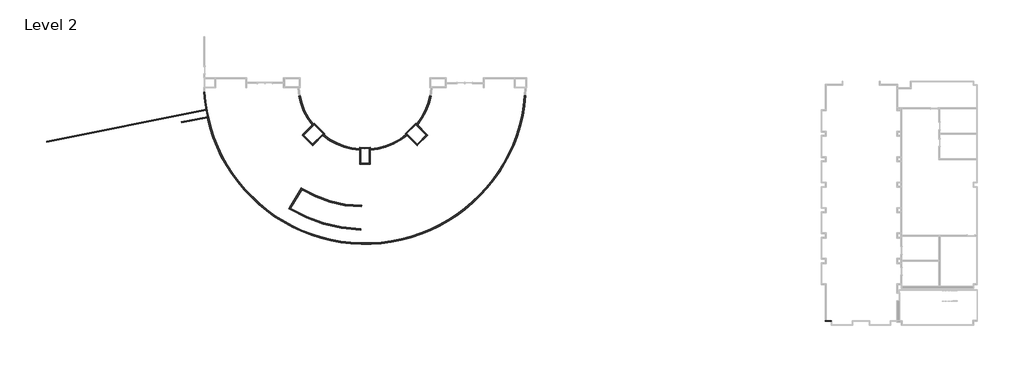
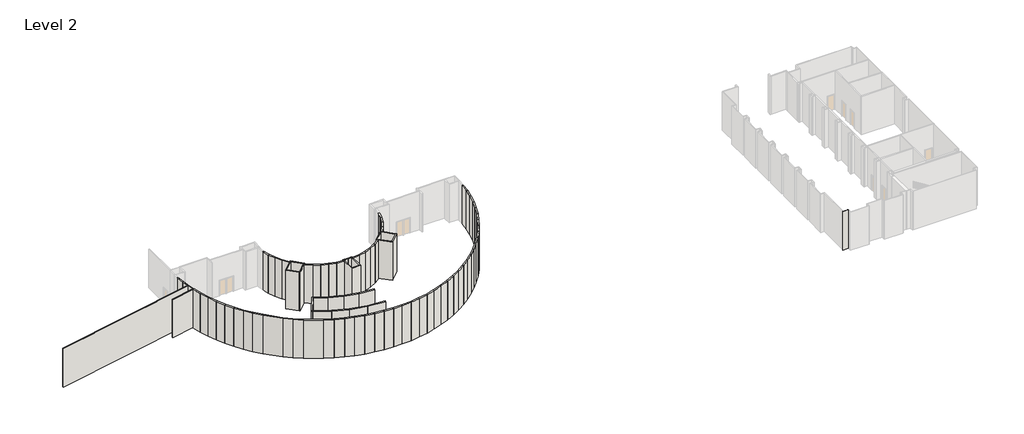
# One storey, part 1 of 9: 89 walls.
"""IFC4 building model written with IfcOpenShell, lengths in millimetres."""

from ifc_helpers import new_model, si_unit, frame, origin, place, context, project, spatial, polyline, outline, extrude, faceted_brep, element, save

model = new_model("IFC4")

# Units and contexts
model_context = context("Model", 3, world=origin())
ifc_project = project(units=[si_unit("LENGTHUNIT", "METRE", prefix="MILLI")], contexts=[model_context])

# Site, building, storey
site = spatial("IfcSite", under=ifc_project)
building = spatial("IfcBuilding", under=site)
storey = spatial("IfcBuildingStorey", under=building, Name="Level 2", Elevation=5486.4)

# Walls
placement = place(None, origin())
element("IfcWall", 1, ObjectType="N2A/B", at=placement, inside=storey, context=model_context, shape_type="Brep", body=[
    faceted_brep([(30238.1397946, -3737.1270097, 5486.4), (28978.6271244, -4996.6396799, 5486.4), (28978.6271244, -4996.6396799, 10972.8), (30238.1397946, -3737.1270097, 10972.8), (30325.6972918, -3824.6845069, 5486.4), (30325.6972918, -3824.6845069, 10972.8), (30238.1397946, -3912.2420041, 10972.8), (29153.7421187, -4996.6396799, 10972.8), (29066.1846216, -5084.1971771, 10972.8), (29066.1846216, -5084.1971771, 5486.4), (29153.7421187, -4996.6396799, 5486.4), (30238.1397946, -3912.2420041, 5486.4)], [[[0, 1, 2, 3]], [[4, 5, 6, 7, 8, 9, 10, 11]], [[1, 0, 4, 11, 10, 9]], [[3, 2, 8, 7, 6, 5]], [[2, 1, 9, 8]], [[0, 3, 5, 4]]]),
])
element("IfcWall", 2, ObjectType="N2A/B", at=placement, inside=storey, context=model_context, shape_type="Brep", body=[
    faceted_brep([(29066.1846216, -5084.1971771, 5486.4), (30397.3315215, -6415.344077, 5486.4), (30397.3315215, -6415.344077, 10972.8), (29066.1846216, -5084.1971771, 10972.8), (29153.7421187, -4996.6396799, 5486.4), (29153.7421187, -4996.6396799, 10972.8), (30397.3315215, -6240.2290827, 10972.8), (30484.8890186, -6327.7865798, 10972.8), (30484.8890186, -6327.7865798, 5486.4), (30397.3315215, -6240.2290827, 5486.4)], [[[0, 1, 2, 3]], [[4, 5, 6, 7, 8, 9]], [[1, 0, 4, 9, 8]], [[3, 2, 7, 6, 5]], [[2, 1, 8, 7]], [[0, 3, 5, 4]]]),
])
element("IfcWall", 3, ObjectType="N2A/B", at=placement, inside=storey, context=model_context, shape_type="Brep", body=[
    faceted_brep([(30484.8890186, -6327.7865798, 5486.4), (31656.8441917, -5155.8314068, 5486.4), (31656.8441917, -5155.8314068, 10972.8), (30484.8890186, -6327.7865798, 10972.8), (30397.3315215, -6240.2290827, 5486.4), (30397.3315215, -6240.2290827, 10972.8), (31481.7291974, -5155.8314068, 10972.8), (31569.2866945, -5068.2739096, 10972.8), (31569.2866945, -5068.2739096, 5486.4), (31481.7291974, -5155.8314068, 5486.4)], [[[0, 1, 2, 3]], [[4, 5, 6, 7, 8, 9]], [[1, 0, 4, 9, 8]], [[3, 2, 7, 6, 5]], [[2, 1, 8, 7]], [[0, 3, 5, 4]]]),
])
element("IfcWall", 4, ObjectType="N2A/B", at=placement, inside=storey, context=model_context, shape_type="SweptSolid", body=[
    extrude(outline(polyline([(30325.6972918, -3824.6845069), (31569.2866945, -5068.2739096), (31481.7291974, -5155.8314068), (30238.1397946, -3912.2420041), (30325.6972918, -3824.6845069)])), frame((0.0, 0.0, 5486.4), z_axis=(0.0, 0.0, 1.0), x_axis=(1.0, 0.0, 0.0)), (0.0, 0.0, 1.0), 5486.4),
])
element("IfcWall", 5, ObjectType="N2A/B", at=placement, inside=storey, context=model_context, shape_type="Brep", body=[
    faceted_brep([(17966.7117714, -3824.8617781, 5486.4), (18054.2692686, -3912.4192752, 5486.4), (19138.6351952, -4996.7852019, 5486.4), (19226.1926924, -5084.342699, 5486.4), (19226.1926924, -5084.342699, 10972.8), (19138.6351952, -4996.7852019, 10972.8), (18054.2692686, -3912.4192752, 10972.8), (17966.7117714, -3824.8617781, 10972.8), (18054.2692686, -3737.3042809, 5486.4), (18054.2692686, -3737.3042809, 10972.8), (19313.7501896, -4996.7852019, 10972.8), (19313.7501896, -4996.7852019, 5486.4)], [[[0, 1, 2, 3, 4, 5, 6, 7]], [[8, 9, 10, 11]], [[3, 2, 1, 0, 8, 11]], [[7, 6, 5, 4, 10, 9]], [[4, 3, 11, 10]], [[0, 7, 9, 8]]]),
])
element("IfcWall", 6, ObjectType="N2A/B", at=placement, inside=storey, context=model_context, shape_type="Brep", body=[
    faceted_brep([(19138.6351952, -4996.7852019, 5486.4), (17895.0741501, -6240.346247, 5486.4), (17807.5166529, -6327.9037441, 5486.4), (17807.5166529, -6327.9037441, 10972.8), (17895.0741501, -6240.346247, 10972.8), (19138.6351952, -4996.7852019, 10972.8), (19226.1926924, -5084.342699, 5486.4), (19226.1926924, -5084.342699, 10972.8), (17895.0741501, -6415.4612413, 10972.8), (17895.0741501, -6415.4612413, 5486.4)], [[[0, 1, 2, 3, 4, 5]], [[6, 7, 8, 9]], [[2, 1, 0, 6, 9]], [[5, 4, 3, 8, 7]], [[3, 2, 9, 8]], [[0, 5, 7, 6]]]),
])
element("IfcWall", 7, ObjectType="N2A/B", at=placement, inside=storey, context=model_context, shape_type="Brep", body=[
    faceted_brep([(17895.0741501, -6240.346247, 5486.4), (16810.7082235, -5155.9803203, 5486.4), (16723.1507263, -5068.4228232, 5486.4), (16723.1507263, -5068.4228232, 10972.8), (16810.7082235, -5155.9803203, 10972.8), (17895.0741501, -6240.346247, 10972.8), (17807.5166529, -6327.9037441, 5486.4), (17807.5166529, -6327.9037441, 10972.8), (16635.5932291, -5155.9803203, 10972.8), (16635.5932291, -5155.9803203, 5486.4)], [[[0, 1, 2, 3, 4, 5]], [[6, 7, 8, 9]], [[2, 1, 0, 6, 9]], [[5, 4, 3, 8, 7]], [[3, 2, 9, 8]], [[0, 5, 7, 6]]]),
])
element("IfcWall", 8, ObjectType="N2A/B", at=placement, inside=storey, context=model_context, shape_type="SweptSolid", body=[
    extrude(outline(polyline([(18054.2692686, -3912.4192752), (16810.7082235, -5155.9803203), (16723.1507263, -5068.4228232), (17966.7117714, -3824.8617781), (18054.2692686, -3912.4192752)])), frame((0.0, 0.0, 5486.4), z_axis=(0.0, 0.0, 1.0), x_axis=(1.0, 0.0, 0.0)), (0.0, 0.0, 1.0), 5486.4),
])
element("IfcWall", 9, ObjectType="F1A", at=placement, inside=storey, context=model_context, shape_type="Brep", body=[
    faceted_brep([(80010.3440089, -27400.4418895, 5486.4), (79378.5190091, -27400.4418895, 5486.4), (79270.5690091, -27400.4418895, 5486.4), (79270.5690091, -27400.4418895, 10972.8), (79378.5190091, -27400.4418895, 10972.8), (80010.3440089, -27400.4418895, 10972.8), (80010.3440089, -27457.5918895, 5486.4), (80010.3440089, -27457.5918895, 10972.8), (79270.5690091, -27457.5918895, 10972.8), (79270.5690091, -27457.5918895, 5486.4)], [[[0, 1, 2, 3, 4, 5]], [[6, 7, 8, 9]], [[2, 1, 0, 6, 9]], [[5, 4, 3, 8, 7]], [[3, 2, 9, 8]], [[0, 5, 7, 6]]]),
])
element("IfcWall", 10, ObjectType="F1C", at=placement, inside=storey, context=model_context, shape_type="Brep", body=[
    faceted_brep([(5097.9638142, -1895.0682709, 5486.4), (5131.2868289, -2066.5003198, 5486.4), (5151.8849533, -2172.4684834, 5486.4), (5304.391453, -2957.0464088, 5486.4), (5324.9895774, -3063.0145724, 5486.4), (5325.5700454, -3066.0008215, 5486.4), (5325.5700454, -3066.0008215, 10972.8), (5324.9895774, -3063.0145724, 10972.8), (5304.391453, -2957.0464088, 10972.8), (5151.8849533, -2172.4684834, 10972.8), (5131.2868289, -2066.5003198, 10972.8), (5097.9638142, -1895.0682709, 10972.8), (5291.0847469, -2322.8403316, 5486.4), (5291.0847469, -2322.8403316, 10972.8), (5430.9969566, -3042.6262519, 10972.8), (5430.9969566, -3042.6262519, 5486.4), (5378.5533726, -3055.701906, 5486.4), (5378.5533726, -3055.701906, 10972.8)], [[[0, 1, 2, 3, 4, 5, 6, 7, 8, 9, 10, 11]], [[12, 13, 14, 15]], [[5, 4, 3, 2, 1, 0, 12, 15, 16]], [[6, 5, 16, 17]], [[11, 10, 9, 8, 7, 6, 17, 14, 13]], [[0, 11, 13, 12]], [[15, 14, 17, 16]]]),
])
element("IfcWall", 11, ObjectType="F1C", at=placement, inside=storey, context=model_context, shape_type="SweptSolid", body=[
    extrude(outline(polyline([(-13986.764687, -5888.6711565), (5131.2868289, -2066.5003198), (5151.8849533, -2172.4684834), (-13965.6016139, -5994.5263729), (-13986.764687, -5888.6711565)])), frame((0.0, 0.0, 5486.4), z_axis=(0.0, 0.0, 1.0), x_axis=(1.0, 0.0, 0.0)), (0.0, 0.0, 1.0), 5486.4),
])
element("IfcWall", 12, ObjectType="F1C", at=placement, inside=storey, context=model_context, shape_type="SweptSolid", body=[
    extrude(outline(polyline([(2165.8131513, -3584.5257544), (5304.391453, -2957.0464088), (5324.9895774, -3063.0145724), (2186.9762244, -3690.3809708), (2165.8131513, -3584.5257544)])), frame((0.0, 0.0, 5486.4), z_axis=(0.0, 0.0, 1.0), x_axis=(1.0, 0.0, 0.0)), (0.0, 0.0, 1.0), 5486.4),
])
element("IfcWall", 13, ObjectType="F1C", at=placement, inside=storey, context=model_context, shape_type="Brep", body=[
    faceted_brep([(24755.8004373, -6647.8940071, 5486.4), (24146.6904726, -6669.1645957, 5486.4), (24146.6904726, -6669.1645957, 10972.8), (24755.8004373, -6647.8940071, 10972.8), (24755.8004373, -6755.9098074, 5486.4), (24755.8004373, -6755.9098074, 10972.8), (24647.8504373, -6759.6795044, 10972.8), (24145.7475456, -6777.2133238, 10972.8), (24145.7475456, -6777.2133238, 5486.4), (24647.8504373, -6759.6795044, 5486.4)], [[[0, 1, 2, 3]], [[4, 5, 6, 7, 8, 9]], [[1, 0, 4, 9, 8]], [[3, 2, 7, 6, 5]], [[2, 1, 8, 7]], [[0, 3, 5, 4]]]),
])
element("IfcWall", 14, ObjectType="F1C", at=placement, inside=storey, context=model_context, shape_type="Brep", body=[
    faceted_brep([(24146.6904726, -6669.1645957, 5486.4), (23536.6006491, -6637.1911429, 5486.4), (23536.6006491, -6637.1911429, 10972.8), (24146.6904726, -6669.1645957, 10972.8), (24145.7475456, -6777.2133238, 5486.4), (24145.7475456, -6777.2133238, 10972.8), (23644.5506491, -6750.9467074, 10972.8), (23536.6006491, -6745.2892877, 10972.8), (23536.6006491, -6745.2892877, 5486.4), (23644.5506491, -6750.9467074, 5486.4)], [[[0, 1, 2, 3]], [[4, 5, 6, 7, 8, 9]], [[1, 0, 4, 9, 8]], [[3, 2, 7, 6, 5]], [[2, 1, 8, 7]], [[0, 3, 5, 4]]]),
])
element("IfcWall", 15, ObjectType="F1C", at=placement, inside=storey, context=model_context, shape_type="Brep", body=[
    faceted_brep([(23536.6006491, -6745.2892877, 5486.4), (23536.6006491, -8658.2607573, 5486.4), (23536.6006491, -8658.2607573, 10972.8), (23536.6006491, -6745.2892877, 10972.8), (23644.5506491, -6750.9467074, 5486.4), (23644.5506491, -6750.9467074, 10972.8), (23644.5506491, -8550.3107573, 10972.8), (23644.5506491, -8658.2607573, 10972.8), (23644.5506491, -8658.2607573, 5486.4), (23644.5506491, -8550.3107573, 5486.4)], [[[0, 1, 2, 3]], [[4, 5, 6, 7, 8, 9]], [[1, 0, 4, 9, 8]], [[3, 2, 7, 6, 5]], [[2, 1, 8, 7]], [[0, 3, 5, 4]]]),
])
element("IfcWall", 16, ObjectType="F1C", at=placement, inside=storey, context=model_context, shape_type="Brep", body=[
    faceted_brep([(23644.5506491, -8658.2607573, 5486.4), (24755.8004373, -8658.2607573, 5486.4), (24755.8004373, -8658.2607573, 10972.8), (23644.5506491, -8658.2607573, 10972.8), (23644.5506491, -8550.3107573, 5486.4), (23644.5506491, -8550.3107573, 10972.8), (24647.8504373, -8550.3107573, 10972.8), (24755.8004373, -8550.3107573, 10972.8), (24755.8004373, -8550.3107573, 5486.4), (24647.8504373, -8550.3107573, 5486.4)], [[[0, 1, 2, 3]], [[4, 5, 6, 7, 8, 9]], [[1, 0, 4, 9, 8]], [[3, 2, 7, 6, 5]], [[2, 1, 8, 7]], [[0, 3, 5, 4]]]),
])
element("IfcWall", 17, ObjectType="F1C", at=placement, inside=storey, context=model_context, shape_type="SweptSolid", body=[
    extrude(outline(polyline([(24755.8004373, -6755.9098074), (24755.8004373, -8550.3107573), (24647.8504373, -8550.3107573), (24647.8504373, -6759.6795044), (24755.8004373, -6755.9098074)])), frame((0.0, 0.0, 5486.4), z_axis=(0.0, 0.0, 1.0), x_axis=(1.0, 0.0, 0.0)), (0.0, 0.0, 1.0), 5486.4),
])
element("IfcWall", 18, ObjectType="N10C", at=placement, inside=storey, context=model_context, shape_type="SweptSolid", body=[
    extrude(outline(polyline([(43129.6516334, -1640.3814089), (43255.2174768, -445.7022122), (43438.8627344, -460.1554075), (43312.1206535, -1666.0257573), (43129.6516334, -1640.3814089)])), frame((0.0, 0.0, 5486.4), z_axis=(0.0, 0.0, 1.0), x_axis=(1.0, 0.0, 0.0)), (0.0, 0.0, 1.0), 5486.4),
])
element("IfcWall", 19, ObjectType="N10C", at=placement, inside=storey, context=model_context, shape_type="SweptSolid", body=[
    extrude(outline(polyline([(42919.0564475, -2834.7260578), (43129.6516334, -1640.3814089), (43312.1206535, -1666.0257573), (43099.2921229, -2873.0363333), (42919.0564475, -2834.7260578)])), frame((0.0, 0.0, 5486.4), z_axis=(0.0, 0.0, 1.0), x_axis=(1.0, 0.0, 0.0)), (0.0, 0.0, 1.0), 5486.4),
])
element("IfcWall", 20, ObjectType="N10C", at=placement, inside=storey, context=model_context, shape_type="SweptSolid", body=[
    extrude(outline(polyline([(42625.4664214, -4012.2513368), (42919.0564475, -2834.7260578), (43099.2921229, -2873.0363333), (42802.9797988, -4061.4801532), (42625.4664214, -4012.2513368)])), frame((0.0, 0.0, 5486.4), z_axis=(0.0, 0.0, 1.0), x_axis=(1.0, 0.0, 0.0)), (0.0, 0.0, 1.0), 5486.4),
])
element("IfcWall", 21, ObjectType="N10C", at=placement, inside=storey, context=model_context, shape_type="SweptSolid", body=[
    extrude(outline(polyline([(42272.3729835, -5167.1679329), (42625.4664214, -4012.2513368), (42802.9797988, -4061.4801532), (42446.5963614, -5227.1578527), (42272.3729835, -5167.1679329)])), frame((0.0, 0.0, 5486.4), z_axis=(0.0, 0.0, 1.0), x_axis=(1.0, 0.0, 0.0)), (0.0, 0.0, 1.0), 5486.4),
])
element("IfcWall", 22, ObjectType="N10C", at=placement, inside=storey, context=model_context, shape_type="SweptSolid", body=[
    extrude(outline(polyline([(41837.7553217, -6299.3856508), (42272.3729835, -5167.1679329), (42446.5963614, -5227.1578527), (42007.3696149, -6371.3826468), (41837.7553217, -6299.3856508)])), frame((0.0, 0.0, 5486.4), z_axis=(0.0, 0.0, 1.0), x_axis=(1.0, 0.0, 0.0)), (0.0, 0.0, 1.0), 5486.4),
])
element("IfcWall", 23, ObjectType="N10C", at=placement, inside=storey, context=model_context, shape_type="SweptSolid", body=[
    extrude(outline(polyline([(41324.8769558, -7399.2568559), (41837.7553217, -6299.3856508), (42007.3696149, -6371.3826468), (41489.7356114, -7481.4523496), (41324.8769558, -7399.2568559)])), frame((0.0, 0.0, 5486.4), z_axis=(0.0, 0.0, 1.0), x_axis=(1.0, 0.0, 0.0)), (0.0, 0.0, 1.0), 5486.4),
])
element("IfcWall", 24, ObjectType="N10C", at=placement, inside=storey, context=model_context, shape_type="SweptSolid", body=[
    extrude(outline(polyline([(40754.7610829, -8471.4888665), (41324.8769558, -7399.2568559), (41489.7356114, -7481.4523496), (40915.0920257, -8562.1997494), (40754.7610829, -8471.4888665)])), frame((0.0, 0.0, 5486.4), z_axis=(0.0, 0.0, 1.0), x_axis=(1.0, 0.0, 0.0)), (0.0, 0.0, 1.0), 5486.4),
])
element("IfcWall", 25, ObjectType="N10C", at=placement, inside=storey, context=model_context, shape_type="SweptSolid", body=[
    extrude(outline(polyline([(40143.2209162, -9489.2626185), (40754.7610829, -8471.4888665), (40915.0920257, -8562.1997494), (40296.9272847, -9590.9986445), (40143.2209162, -9489.2626185)])), frame((0.0, 0.0, 5486.4), z_axis=(0.0, 0.0, 1.0), x_axis=(1.0, 0.0, 0.0)), (0.0, 0.0, 1.0), 5486.4),
])
element("IfcWall", 26, ObjectType="N10C", at=placement, inside=storey, context=model_context, shape_type="SweptSolid", body=[
    extrude(outline(polyline([(39428.3079426, -10473.2559101), (40143.2209162, -9489.2626185), (40296.9272847, -9590.9986445), (39574.4540408, -10585.3977555), (39428.3079426, -10473.2559101)])), frame((0.0, 0.0, 5486.4), z_axis=(0.0, 0.0, 1.0), x_axis=(1.0, 0.0, 0.0)), (0.0, 0.0, 1.0), 5486.4),
])
element("IfcWall", 27, ObjectType="N10C", at=placement, inside=storey, context=model_context, shape_type="SweptSolid", body=[
    extrude(outline(polyline([(38664.0751912, -11417.0047617), (39428.3079426, -10473.2559101), (39574.4540408, -10585.3977555), (38804.1519506, -11536.6416163), (38664.0751912, -11417.0047617)])), frame((0.0, 0.0, 5486.4), z_axis=(0.0, 0.0, 1.0), x_axis=(1.0, 0.0, 0.0)), (0.0, 0.0, 1.0), 5486.4),
])
element("IfcWall", 28, ObjectType="N10C", at=placement, inside=storey, context=model_context, shape_type="SweptSolid", body=[
    extrude(outline(polyline([(37852.5744353, -12318.267657), (38664.0751912, -11417.0047617), (38804.1519506, -11536.6416163), (37984.044636, -12447.4630634), (37852.5744353, -12318.267657)])), frame((0.0, 0.0, 5486.4), z_axis=(0.0, 0.0, 1.0), x_axis=(1.0, 0.0, 0.0)), (0.0, 0.0, 1.0), 5486.4),
])
element("IfcWall", 29, ObjectType="N10C", at=placement, inside=storey, context=model_context, shape_type="SweptSolid", body=[
    extrude(outline(polyline([(36970.9602284, -13140.3862051), (37852.5744353, -12318.267657), (37984.044636, -12447.4630634), (37094.1993995, -13277.2571708), (36970.9602284, -13140.3862051)])), frame((0.0, 0.0, 5486.4), z_axis=(0.0, 0.0, 1.0), x_axis=(1.0, 0.0, 0.0)), (0.0, 0.0, 1.0), 5486.4),
])
element("IfcWall", 30, ObjectType="N10C", at=placement, inside=storey, context=model_context, shape_type="SweptSolid", body=[
    extrude(outline(polyline([(36059.5583776, -13932.6557469), (36970.9602284, -13140.3862051), (37094.1993995, -13277.2571708), (36174.30366, -14076.9103374), (36059.5583776, -13932.6557469)])), frame((0.0, 0.0, 5486.4), z_axis=(0.0, 0.0, 1.0), x_axis=(1.0, 0.0, 0.0)), (0.0, 0.0, 1.0), 5486.4),
])
element("IfcWall", 31, ObjectType="N10C", at=placement, inside=storey, context=model_context, shape_type="SweptSolid", body=[
    extrude(outline(polyline([(35078.4077677, -14645.5033913), (36059.5583776, -13932.6557469), (36174.30366, -14076.9103374), (35182.7472307, -14797.3182521), (35078.4077677, -14645.5033913)])), frame((0.0, 0.0, 5486.4), z_axis=(0.0, 0.0, 1.0), x_axis=(1.0, 0.0, 0.0)), (0.0, 0.0, 1.0), 5486.4),
])
element("IfcWall", 32, ObjectType="N10C", at=placement, inside=storey, context=model_context, shape_type="SweptSolid", body=[
    extrude(outline(polyline([(34059.944796, -15306.9009785), (35078.4077677, -14645.5033913), (35182.7472307, -14797.3182521), (34156.1958896, -15463.9684879), (34059.944796, -15306.9009785)])), frame((0.0, 0.0, 5486.4), z_axis=(0.0, 0.0, 1.0), x_axis=(1.0, 0.0, 0.0)), (0.0, 0.0, 1.0), 5486.4),
])
element("IfcWall", 33, ObjectType="N10C", at=placement, inside=storey, context=model_context, shape_type="SweptSolid", body=[
    extrude(outline(polyline([(33009.656163, -15913.2854035), (34059.944796, -15306.9009785), (34156.1958896, -15463.9684879), (33094.7681779, -16076.7840629), (33009.656163, -15913.2854035)])), frame((0.0, 0.0, 5486.4), z_axis=(0.0, 0.0, 1.0), x_axis=(1.0, 0.0, 0.0)), (0.0, 0.0, 1.0), 5486.4),
])
element("IfcWall", 34, ObjectType="N10C", at=placement, inside=storey, context=model_context, shape_type="SweptSolid", body=[
    extrude(outline(polyline([(31910.5143104, -16425.8236667), (33009.656163, -15913.2854035), (33094.7681779, -16076.7840629), (31983.9691226, -16594.7581691), (31910.5143104, -16425.8236667)])), frame((0.0, 0.0, 5486.4), z_axis=(0.0, 0.0, 1.0), x_axis=(1.0, 0.0, 0.0)), (0.0, 0.0, 1.0), 5486.4),
])
element("IfcWall", 35, ObjectType="N10C", at=placement, inside=storey, context=model_context, shape_type="SweptSolid", body=[
    extrude(outline(polyline([(30808.1132329, -16871.2226135), (31910.5143104, -16425.8236667), (31983.9691226, -16594.7581691), (30872.626029, -17043.7699248), (30808.1132329, -16871.2226135)])), frame((0.0, 0.0, 5486.4), z_axis=(0.0, 0.0, 1.0), x_axis=(1.0, 0.0, 0.0)), (0.0, 0.0, 1.0), 5486.4),
])
element("IfcWall", 36, ObjectType="N10C", at=placement, inside=storey, context=model_context, shape_type="SweptSolid", body=[
    extrude(outline(polyline([(29630.832025, -17276.593042), (30808.1132329, -16871.2226135), (30872.626029, -17043.7699248), (29684.7050924, -17452.8039057), (29630.832025, -17276.593042)])), frame((0.0, 0.0, 5486.4), z_axis=(0.0, 0.0, 1.0), x_axis=(1.0, 0.0, 0.0)), (0.0, 0.0, 1.0), 5486.4),
])
element("IfcWall", 37, ObjectType="N10C", at=placement, inside=storey, context=model_context, shape_type="SweptSolid", body=[
    extrude(outline(polyline([(28483.9213138, -17583.9068408), (29630.832025, -17276.593042), (29684.7050924, -17452.8039057), (28525.3713007, -17763.4464589), (28483.9213138, -17583.9068408)])), frame((0.0, 0.0, 5486.4), z_axis=(0.0, 0.0, 1.0), x_axis=(1.0, 0.0, 0.0)), (0.0, 0.0, 1.0), 5486.4),
])
element("IfcWall", 38, ObjectType="N10C", at=placement, inside=storey, context=model_context, shape_type="SweptSolid", body=[
    extrude(outline(polyline([(27292.6444776, -17815.4676005), (28483.9213138, -17583.9068408), (28525.3713007, -17763.4464589), (27323.0484129, -17997.1543535), (27292.6444776, -17815.4676005)])), frame((0.0, 0.0, 5486.4), z_axis=(0.0, 0.0, 1.0), x_axis=(1.0, 0.0, 0.0)), (0.0, 0.0, 1.0), 5486.4),
])
element("IfcWall", 39, ObjectType="N10C", at=placement, inside=storey, context=model_context, shape_type="SweptSolid", body=[
    extrude(outline(polyline([(26090.881291, -17984.3644019), (27292.6444776, -17815.4676005), (27323.0484129, -17997.1543535), (26110.1419406, -18167.6172416), (26090.881291, -17984.3644019)])), frame((0.0, 0.0, 5486.4), z_axis=(0.0, 0.0, 1.0), x_axis=(1.0, 0.0, 0.0)), (0.0, 0.0, 1.0), 5486.4),
])
element("IfcWall", 40, ObjectType="N10C", at=placement, inside=storey, context=model_context, shape_type="SweptSolid", body=[
    extrude(outline(polyline([(24881.0661959, -18068.9629145), (26090.881291, -17984.3644019), (26110.1419406, -18167.6172416), (24887.4968556, -18253.1129145), (24881.0661959, -18068.9629145)])), frame((0.0, 0.0, 5486.4), z_axis=(0.0, 0.0, 1.0), x_axis=(1.0, 0.0, 0.0)), (0.0, 0.0, 1.0), 5486.4),
])
element("IfcWall", 41, ObjectType="N10C", at=placement, inside=storey, context=model_context, shape_type="SweptSolid", body=[
    extrude(outline(polyline([(23693.6968556, -18068.9629145), (24881.0661959, -18068.9629145), (24887.4968556, -18253.1129145), (23687.2661959, -18253.1129145), (23693.6968556, -18068.9629145)])), frame((0.0, 0.0, 5486.4), z_axis=(0.0, 0.0, 1.0), x_axis=(1.0, 0.0, 0.0)), (0.0, 0.0, 1.0), 5486.4),
])
element("IfcWall", 42, ObjectType="N10C", at=placement, inside=storey, context=model_context, shape_type="SweptSolid", body=[
    extrude(outline(polyline([(22475.0074643, -17983.7438506), (23693.6968556, -18068.9629145), (23687.2661959, -18253.1129145), (22458.9552895, -18167.2210487), (22475.0074643, -17983.7438506)])), frame((0.0, 0.0, 5486.4), z_axis=(0.0, 0.0, 1.0), x_axis=(1.0, 0.0, 0.0)), (0.0, 0.0, 1.0), 5486.4),
])
element("IfcWall", 43, ObjectType="N10C", at=placement, inside=storey, context=model_context, shape_type="SweptSolid", body=[
    extrude(outline(polyline([(21267.1734213, -17856.7953772), (22475.0074643, -17983.7438506), (22458.9552895, -18167.2210487), (21241.5290729, -18039.2643973), (21267.1734213, -17856.7953772)])), frame((0.0, 0.0, 5486.4), z_axis=(0.0, 0.0, 1.0), x_axis=(1.0, 0.0, 0.0)), (0.0, 0.0, 1.0), 5486.4),
])
element("IfcWall", 44, ObjectType="N10C", at=placement, inside=storey, context=model_context, shape_type="SweptSolid", body=[
    extrude(outline(polyline([(20072.8287724, -17646.2001913), (21267.1734213, -17856.7953772), (21241.5290729, -18039.2643973), (20034.5184969, -17826.4358667), (20072.8287724, -17646.2001913)])), frame((0.0, 0.0, 5486.4), z_axis=(0.0, 0.0, 1.0), x_axis=(1.0, 0.0, 0.0)), (0.0, 0.0, 1.0), 5486.4),
])
element("IfcWall", 45, ObjectType="N10C", at=placement, inside=storey, context=model_context, shape_type="SweptSolid", body=[
    extrude(outline(polyline([(18908.443925, -17355.8864428), (20072.8287724, -17646.2001913), (20034.5184969, -17826.4358667), (18857.6543663, -17533.0106834), (18908.443925, -17355.8864428)])), frame((0.0, 0.0, 5486.4), z_axis=(0.0, 0.0, 1.0), x_axis=(1.0, 0.0, 0.0)), (0.0, 0.0, 1.0), 5486.4),
])
element("IfcWall", 46, ObjectType="N10C", at=placement, inside=storey, context=model_context, shape_type="SweptSolid", body=[
    extrude(outline(polyline([(17763.0299569, -16983.7188842), (18908.443925, -17355.8864428), (18857.6543663, -17533.0106834), (17701.5383522, -17157.3658193), (17763.0299569, -16983.7188842)])), frame((0.0, 0.0, 5486.4), z_axis=(0.0, 0.0, 1.0), x_axis=(1.0, 0.0, 0.0)), (0.0, 0.0, 1.0), 5486.4),
])
element("IfcWall", 47, ObjectType="N10C", at=placement, inside=storey, context=model_context, shape_type="SweptSolid", body=[
    extrude(outline(polyline([(16603.8122548, -16538.7368996), (17763.0299569, -16983.7188842), (17701.5383522, -17157.3658193), (16531.8152589, -16708.3511928), (16603.8122548, -16538.7368996)])), frame((0.0, 0.0, 5486.4), z_axis=(0.0, 0.0, 1.0), x_axis=(1.0, 0.0, 0.0)), (0.0, 0.0, 1.0), 5486.4),
])
element("IfcWall", 48, ObjectType="N10C", at=placement, inside=storey, context=model_context, shape_type="SweptSolid", body=[
    extrude(outline(polyline([(15528.4195282, -16037.2730356), (16603.8122548, -16538.7368996), (16531.8152589, -16708.3511928), (15443.3075133, -16200.7716951), (15528.4195282, -16037.2730356)])), frame((0.0, 0.0, 5486.4), z_axis=(0.0, 0.0, 1.0), x_axis=(1.0, 0.0, 0.0)), (0.0, 0.0, 1.0), 5486.4),
])
element("IfcWall", 49, ObjectType="N10C", at=placement, inside=storey, context=model_context, shape_type="SweptSolid", body=[
    extrude(outline(polyline([(13420.6388256, -14820.3452796), (15528.4195282, -16037.2730356), (15443.3075133, -16200.7716951), (13320.2059075, -14974.9984115), (13420.6388256, -14820.3452796)])), frame((0.0, 0.0, 5486.4), z_axis=(0.0, 0.0, 1.0), x_axis=(1.0, 0.0, 0.0)), (0.0, 0.0, 1.0), 5486.4),
])
element("IfcWall", 50, ObjectType="N10C", at=placement, inside=storey, context=model_context, shape_type="SweptSolid", body=[
    extrude(outline(polyline([(12440.7904306, -14108.4437497), (13420.6388256, -14820.3452796), (13320.2059075, -14974.9984115), (12327.3472634, -14253.6443822), (12440.7904306, -14108.4437497)])), frame((0.0, 0.0, 5486.4), z_axis=(0.0, 0.0, 1.0), x_axis=(1.0, 0.0, 0.0)), (0.0, 0.0, 1.0), 5486.4),
])
element("IfcWall", 51, ObjectType="N10C", at=placement, inside=storey, context=model_context, shape_type="SweptSolid", body=[
    extrude(outline(polyline([(11528.7153766, -13343.1219082), (12440.7904306, -14108.4437497), (12327.3472634, -14253.6443822), (11404.1869163, -13479.0208755), (11528.7153766, -13343.1219082)])), frame((0.0, 0.0, 5486.4), z_axis=(0.0, 0.0, 1.0), x_axis=(1.0, 0.0, 0.0)), (0.0, 0.0, 1.0), 5486.4),
])
element("IfcWall", 52, ObjectType="N10C", at=placement, inside=storey, context=model_context, shape_type="SweptSolid", body=[
    extrude(outline(polyline([(9822.3663887, -11636.7729204), (11528.7153766, -13343.1219082), (11404.1869163, -13479.0208755), (9686.4674215, -11761.3013806), (9822.3663887, -11636.7729204)])), frame((0.0, 0.0, 5486.4), z_axis=(0.0, 0.0, 1.0), x_axis=(1.0, 0.0, 0.0)), (0.0, 0.0, 1.0), 5486.4),
])
element("IfcWall", 53, ObjectType="N10C", at=placement, inside=storey, context=model_context, shape_type="SweptSolid", body=[
    extrude(outline(polyline([(9043.3305677, -10708.3541818), (9822.3663887, -11636.7729204), (9686.4674215, -11761.3013806), (8898.1299351, -10821.797349), (9043.3305677, -10708.3541818)])), frame((0.0, 0.0, 5486.4), z_axis=(0.0, 0.0, 1.0), x_axis=(1.0, 0.0, 0.0)), (0.0, 0.0, 1.0), 5486.4),
])
element("IfcWall", 54, ObjectType="N10C", at=placement, inside=storey, context=model_context, shape_type="SweptSolid", body=[
    extrude(outline(polyline([(8327.8446726, -9723.5723316), (9043.3305677, -10708.3541818), (8898.1299351, -10821.797349), (8176.0298118, -9827.9117946), (8327.8446726, -9723.5723316)])), frame((0.0, 0.0, 5486.4), z_axis=(0.0, 0.0, 1.0), x_axis=(1.0, 0.0, 0.0)), (0.0, 0.0, 1.0), 5486.4),
])
element("IfcWall", 55, ObjectType="N10C", at=placement, inside=storey, context=model_context, shape_type="SweptSolid", body=[
    extrude(outline(polyline([(7670.2096449, -8710.9031933), (8327.8446726, -9723.5723316), (8176.0298118, -9827.9117946), (7513.1421355, -8807.1542869), (7670.2096449, -8710.9031933)])), frame((0.0, 0.0, 5486.4), z_axis=(0.0, 0.0, 1.0), x_axis=(1.0, 0.0, 0.0)), (0.0, 0.0, 1.0), 5486.4),
])
element("IfcWall", 56, ObjectType="N10C", at=placement, inside=storey, context=model_context, shape_type="SweptSolid", body=[
    extrude(outline(polyline([(7067.176029, -7666.418332), (7670.2096449, -8710.9031933), (7513.1421355, -8807.1542869), (6902.8720046, -7750.1354139), (7067.176029, -7666.418332)])), frame((0.0, 0.0, 5486.4), z_axis=(0.0, 0.0, 1.0), x_axis=(1.0, 0.0, 0.0)), (0.0, 0.0, 1.0), 5486.4),
])
element("IfcWall", 57, ObjectType="N10C", at=placement, inside=storey, context=model_context, shape_type="SweptSolid", body=[
    extrude(outline(polyline([(6573.8990966, -6558.5002021), (7067.176029, -7666.418332), (6902.8720046, -7750.1354139), (6404.3623065, -6630.4642999), (6573.8990966, -6558.5002021)])), frame((0.0, 0.0, 5486.4), z_axis=(0.0, 0.0, 1.0), x_axis=(1.0, 0.0, 0.0)), (0.0, 0.0, 1.0), 5486.4),
])
element("IfcWall", 58, ObjectType="N10C", at=placement, inside=storey, context=model_context, shape_type="SweptSolid", body=[
    extrude(outline(polyline([(6118.98528, -5432.5489953), (6573.8990966, -6558.5002021), (6404.3623065, -6630.4642999), (5945.8354057, -5495.5703956), (6118.98528, -5432.5489953)])), frame((0.0, 0.0, 5486.4), z_axis=(0.0, 0.0, 1.0), x_axis=(1.0, 0.0, 0.0)), (0.0, 0.0, 1.0), 5486.4),
])
element("IfcWall", 59, ObjectType="N10C", at=placement, inside=storey, context=model_context, shape_type="SweptSolid", body=[
    extrude(outline(polyline([(5741.5017828, -4270.7742502), (6118.98528, -5432.5489953), (5945.8354057, -5495.5703956), (5564.3775422, -4321.5638089), (5741.5017828, -4270.7742502)])), frame((0.0, 0.0, 5486.4), z_axis=(0.0, 0.0, 1.0), x_axis=(1.0, 0.0, 0.0)), (0.0, 0.0, 1.0), 5486.4),
])
element("IfcWall", 60, ObjectType="N10C", at=placement, inside=storey, context=model_context, shape_type="SweptSolid", body=[
    extrude(outline(polyline([(5435.0388341, -3041.6184987), (5741.5017828, -4270.7742502), (5564.3775422, -4321.5638089), (5256.3588761, -3086.1684157), (5435.0388341, -3041.6184987)])), frame((0.0, 0.0, 5486.4), z_axis=(0.0, 0.0, 1.0), x_axis=(1.0, 0.0, 0.0)), (0.0, 0.0, 1.0), 5486.4),
])
element("IfcWall", 61, ObjectType="N10C", at=placement, inside=storey, context=model_context, shape_type="SweptSolid", body=[
    extrude(outline(polyline([(31655.2307524, -1374.3801321), (31902.5448692, -451.3912828), (32083.335214, -488.1734942), (31831.0250461, -1429.80786), (31655.2307524, -1374.3801321)])), frame((0.0, 0.0, 5486.4), z_axis=(0.0, 0.0, 1.0), x_axis=(1.0, 0.0, 0.0)), (0.0, 0.0, 1.0), 5486.4),
])
element("IfcWall", 62, ObjectType="N10C", at=placement, inside=storey, context=model_context, shape_type="SweptSolid", body=[
    extrude(outline(polyline([(31337.9303202, -2246.1559049), (31655.2307524, -1374.3801321), (31831.0250461, -1429.80786), (31505.464417, -2324.2783372), (31337.9303202, -2246.1559049)])), frame((0.0, 0.0, 5486.4), z_axis=(0.0, 0.0, 1.0), x_axis=(1.0, 0.0, 0.0)), (0.0, 0.0, 1.0), 5486.4),
])
element("IfcWall", 63, ObjectType="N10C", at=placement, inside=storey, context=model_context, shape_type="SweptSolid", body=[
    extrude(outline(polyline([(30874.0681202, -3049.588803), (31337.9303202, -2246.1559049), (31505.464417, -2324.2783372), (31029.526617, -3148.6267881), (30874.0681202, -3049.588803)])), frame((0.0, 0.0, 5486.4), z_axis=(0.0, 0.0, 1.0), x_axis=(1.0, 0.0, 0.0)), (0.0, 0.0, 1.0), 5486.4),
])
element("IfcWall", 64, ObjectType="N10C", at=placement, inside=storey, context=model_context, shape_type="SweptSolid", body=[
    extrude(outline(polyline([(30329.0162829, -3828.003498), (30874.0681202, -3049.588803), (31029.526617, -3148.6267881), (30461.2387531, -3960.2259681), (30329.0162829, -3828.003498)])), frame((0.0, 0.0, 5486.4), z_axis=(0.0, 0.0, 1.0), x_axis=(1.0, 0.0, 0.0)), (0.0, 0.0, 1.0), 5486.4),
])
element("IfcWall", 65, ObjectType="N10C", at=placement, inside=storey, context=model_context, shape_type="SweptSolid", body=[
    extrude(outline(polyline([(25727.8960904, -6842.1698834), (24755.8004373, -6978.7890179), (24755.8004373, -6792.8292704), (25692.7103931, -6661.1551632), (25727.8960904, -6842.1698834)])), frame((0.0, 0.0, 5486.4), z_axis=(0.0, 0.0, 1.0), x_axis=(1.0, 0.0, 0.0)), (0.0, 0.0, 1.0), 5486.4),
])
element("IfcWall", 66, ObjectType="N10C", at=placement, inside=storey, context=model_context, shape_type="SweptSolid", body=[
    extrude(outline(polyline([(26650.7093837, -6612.086688), (25727.8960904, -6842.1698834), (25692.7103931, -6661.1551632), (26593.6649469, -6436.5219636), (26650.7093837, -6612.086688)])), frame((0.0, 0.0, 5486.4), z_axis=(0.0, 0.0, 1.0), x_axis=(1.0, 0.0, 0.0)), (0.0, 0.0, 1.0), 5486.4),
])
element("IfcWall", 67, ObjectType="N10C", at=placement, inside=storey, context=model_context, shape_type="SweptSolid", body=[
    extrude(outline(polyline([(27556.0709997, -6246.2968512), (26650.7093837, -6612.086688), (26593.6649469, -6436.5219636), (27478.1390438, -6079.1712324), (27556.0709997, -6246.2968512)])), frame((0.0, 0.0, 5486.4), z_axis=(0.0, 0.0, 1.0), x_axis=(1.0, 0.0, 0.0)), (0.0, 0.0, 1.0), 5486.4),
])
element("IfcWall", 68, ObjectType="N10C", at=placement, inside=storey, context=model_context, shape_type="SweptSolid", body=[
    extrude(outline(polyline([(28395.8106316, -5799.7993688), (27556.0709997, -6246.2968512), (27478.1390438, -6079.1712324), (28297.9877074, -5643.2499654), (28395.8106316, -5799.7993688)])), frame((0.0, 0.0, 5486.4), z_axis=(0.0, 0.0, 1.0), x_axis=(1.0, 0.0, 0.0)), (0.0, 0.0, 1.0), 5486.4),
])
element("IfcWall", 69, ObjectType="N10C", at=placement, inside=storey, context=model_context, shape_type="SweptSolid", body=[
    extrude(outline(polyline([(29198.5572534, -5216.5698089), (28395.8106316, -5799.7993688), (28297.9877074, -5643.2499654), (29066.7204093, -5084.7329648), (29198.5572534, -5216.5698089)])), frame((0.0, 0.0, 5486.4), z_axis=(0.0, 0.0, 1.0), x_axis=(1.0, 0.0, 0.0)), (0.0, 0.0, 1.0), 5486.4),
])
element("IfcWall", 70, ObjectType="N10C", at=placement, inside=storey, context=model_context, shape_type="SweptSolid", body=[
    extrude(outline(polyline([(22597.4643791, -6687.2681907), (23536.6006491, -6793.1487462), (23536.6006491, -6978.4654038), (22561.5196707, -6868.5323525), (22597.4643791, -6687.2681907)])), frame((0.0, 0.0, 5486.4), z_axis=(0.0, 0.0, 1.0), x_axis=(1.0, 0.0, 0.0)), (0.0, 0.0, 1.0), 5486.4),
])
element("IfcWall", 71, ObjectType="N10C", at=placement, inside=storey, context=model_context, shape_type="SweptSolid", body=[
    extrude(outline(polyline([(21680.9258957, -6424.4550097), (22597.4643791, -6687.2681907), (22561.5196707, -6868.5323525), (21622.4385763, -6599.2551819), (21680.9258957, -6424.4550097)])), frame((0.0, 0.0, 5486.4), z_axis=(0.0, 0.0, 1.0), x_axis=(1.0, 0.0, 0.0)), (0.0, 0.0, 1.0), 5486.4),
])
element("IfcWall", 72, ObjectType="N10C", at=placement, inside=storey, context=model_context, shape_type="SweptSolid", body=[
    extrude(outline(polyline([(20812.5575834, -6091.1196454), (21680.9258957, -6424.4550097), (21622.4385763, -6599.2551819), (20736.049119, -6259.0021482), (20812.5575834, -6091.1196454)])), frame((0.0, 0.0, 5486.4), z_axis=(0.0, 0.0, 1.0), x_axis=(1.0, 0.0, 0.0)), (0.0, 0.0, 1.0), 5486.4),
])
element("IfcWall", 73, ObjectType="N10C", at=placement, inside=storey, context=model_context, shape_type="SweptSolid", body=[
    extrude(outline(polyline([(19993.4206655, -5655.5768204), (20812.5575834, -6091.1196454), (20736.049119, -6259.0021482), (19895.5977413, -5812.1262238), (19993.4206655, -5655.5768204)])), frame((0.0, 0.0, 5486.4), z_axis=(0.0, 0.0, 1.0), x_axis=(1.0, 0.0, 0.0)), (0.0, 0.0, 1.0), 5486.4),
])
element("IfcWall", 74, ObjectType="N10C", at=placement, inside=storey, context=model_context, shape_type="SweptSolid", body=[
    extrude(outline(polyline([(19218.1938334, -5092.341558), (19993.4206655, -5655.5768204), (19895.5977413, -5812.1262238), (19086.3569893, -5224.1784021), (19218.1938334, -5092.341558)])), frame((0.0, 0.0, 5486.4), z_axis=(0.0, 0.0, 1.0), x_axis=(1.0, 0.0, 0.0)), (0.0, 0.0, 1.0), 5486.4),
])
element("IfcWall", 75, ObjectType="N10C", at=placement, inside=storey, context=model_context, shape_type="SweptSolid", body=[
    extrude(outline(polyline([(17401.5840178, -3069.9233379), (17957.078142, -3834.4954074), (17825.2412979, -3966.3322515), (17245.0346144, -3167.7462621), (17401.5840178, -3069.9233379)])), frame((0.0, 0.0, 5486.4), z_axis=(0.0, 0.0, 1.0), x_axis=(1.0, 0.0, 0.0)), (0.0, 0.0, 1.0), 5486.4),
])
element("IfcWall", 76, ObjectType="N10C", at=placement, inside=storey, context=model_context, shape_type="SweptSolid", body=[
    extrude(outline(polyline([(16954.1166151, -2228.3595512), (17401.5840178, -3069.9233379), (17245.0346144, -3167.7462621), (16786.2341123, -2304.8680156), (16954.1166151, -2228.3595512)])), frame((0.0, 0.0, 5486.4), z_axis=(0.0, 0.0, 1.0), x_axis=(1.0, 0.0, 0.0)), (0.0, 0.0, 1.0), 5486.4),
])
element("IfcWall", 77, ObjectType="N10C", at=placement, inside=storey, context=model_context, shape_type="SweptSolid", body=[
    extrude(outline(polyline([(16621.3587489, -1361.4956728), (16954.1166151, -2228.3595512), (16786.2341123, -2304.8680156), (16445.4035805, -1416.9741243), (16621.3587489, -1361.4956728)])), frame((0.0, 0.0, 5486.4), z_axis=(0.0, 0.0, 1.0), x_axis=(1.0, 0.0, 0.0)), (0.0, 0.0, 1.0), 5486.4),
])
element("IfcWall", 78, ObjectType="N10C", at=placement, inside=storey, context=model_context, shape_type="SweptSolid", body=[
    extrude(outline(polyline([(16396.5303273, -459.7581264), (16621.3587489, -1361.4956728), (16445.4035805, -1416.9741243), (16215.5156071, -494.9438236), (16396.5303273, -459.7581264)])), frame((0.0, 0.0, 5486.4), z_axis=(0.0, 0.0, 1.0), x_axis=(1.0, 0.0, 0.0)), (0.0, 0.0, 1.0), 5486.4),
])
element("IfcWall", 79, ObjectType="N10C", at=placement, inside=storey, context=model_context, shape_type="SweptSolid", body=[
    extrude(outline(polyline([(21323.655551, -16166.1118621), (23651.3898179, -16369.7622221), (23635.3400879, -16553.2114758), (21294.7777995, -16348.4388093), (21323.655551, -16166.1118621)])), frame((0.0, 0.0, 5486.4), z_axis=(0.0, 0.0, 1.0), x_axis=(1.0, 0.0, 0.0)), (0.0, 0.0, 1.0), 5486.4),
])
element("IfcWall", 80, ObjectType="N10C", at=placement, inside=storey, context=model_context, shape_type="SweptSolid", body=[
    extrude(outline(polyline([(19202.1336732, -15676.3199437), (21323.655551, -16166.1118621), (21294.7777995, -16348.4388093), (19148.1619514, -15852.8534914), (19202.1336732, -15676.3199437)])), frame((0.0, 0.0, 5486.4), z_axis=(0.0, 0.0, 1.0), x_axis=(1.0, 0.0, 0.0)), (0.0, 0.0, 1.0), 5486.4),
])
element("IfcWall", 81, ObjectType="N10C", at=placement, inside=storey, context=model_context, shape_type="SweptSolid", body=[
    extrude(outline(polyline([(17220.7622855, -14915.7427279), (19202.1336732, -15676.3199437), (19148.1619514, -15852.8534914), (17145.7589432, -15084.2029929), (17220.7622855, -14915.7427279)])), frame((0.0, 0.0, 5486.4), z_axis=(0.0, 0.0, 1.0), x_axis=(1.0, 0.0, 0.0)), (0.0, 0.0, 1.0), 5486.4),
])
element("IfcWall", 82, ObjectType="N10C", at=placement, inside=storey, context=model_context, shape_type="Brep", body=[
    faceted_brep([(17220.7622855, -14915.7427279, 5486.4), (15270.8753534, -13922.2257124, 5486.4), (15106.3958381, -13838.4192134, 5486.4), (15106.3958381, -13838.4192134, 10972.8), (15270.8753534, -13922.2257124, 10972.8), (17220.7622855, -14915.7427279, 10972.8), (17145.7589432, -15084.2029929, 5486.4), (17145.7589432, -15084.2029929, 10972.8), (15011.3199766, -13996.652019, 10972.8), (15011.3199766, -13996.652019, 5486.4)], [[[0, 1, 2, 3, 4, 5]], [[6, 7, 8, 9]], [[2, 1, 0, 6, 9]], [[5, 4, 3, 8, 7]], [[3, 2, 9, 8]], [[0, 5, 7, 6]]]),
])
element("IfcWall", 83, ObjectType="N10C", at=placement, inside=storey, context=model_context, shape_type="Brep", body=[
    faceted_brep([(15270.8753534, -13922.2257124, 5486.4), (16588.651939, -11729.0771787, 5486.4), (16683.7278005, -11570.8443731, 5486.4), (16683.7278005, -11570.8443731, 10972.8), (16588.651939, -11729.0771787, 10972.8), (15270.8753534, -13922.2257124, 10972.8), (15106.3958381, -13838.4192134, 5486.4), (15106.3958381, -13838.4192134, 10972.8), (16519.2482852, -11487.0378742, 10972.8), (16519.2482852, -11487.0378742, 5486.4)], [[[0, 1, 2, 3, 4, 5]], [[6, 7, 8, 9]], [[2, 1, 0, 6, 9]], [[5, 4, 3, 8, 7]], [[3, 2, 9, 8]], [[0, 5, 7, 6]]]),
])
element("IfcWall", 84, ObjectType="N10C", at=placement, inside=storey, context=model_context, shape_type="SweptSolid", body=[
    extrude(outline(polyline([(18169.2709802, -12534.4428062), (16588.651939, -11729.0771787), (16683.7278005, -11570.8443731), (18242.8378383, -12365.2506159), (18169.2709802, -12534.4428062)])), frame((0.0, 0.0, 5486.4), z_axis=(0.0, 0.0, 1.0), x_axis=(1.0, 0.0, 0.0)), (0.0, 0.0, 1.0), 5486.4),
])
element("IfcWall", 85, ObjectType="N10C", at=placement, inside=storey, context=model_context, shape_type="SweptSolid", body=[
    extrude(outline(polyline([(19961.5742655, -13186.7878528), (18169.2709802, -12534.4428062), (18242.8378383, -12365.2506159), (20013.9734263, -13009.8912508), (19961.5742655, -13186.7878528)])), frame((0.0, 0.0, 5486.4), z_axis=(0.0, 0.0, 1.0), x_axis=(1.0, 0.0, 0.0)), (0.0, 0.0, 1.0), 5486.4),
])
element("IfcWall", 86, ObjectType="N10C", at=placement, inside=storey, context=model_context, shape_type="SweptSolid", body=[
    extrude(outline(polyline([(21755.2629446, -13600.8935136), (19961.5742655, -13186.7878528), (20013.9734263, -13009.8912508), (21784.1406961, -13418.5665664), (21755.2629446, -13600.8935136)])), frame((0.0, 0.0, 5486.4), z_axis=(0.0, 0.0, 1.0), x_axis=(1.0, 0.0, 0.0)), (0.0, 0.0, 1.0), 5486.4),
])
element("IfcWall", 87, ObjectType="N10C", at=placement, inside=storey, context=model_context, shape_type="SweptSolid", body=[
    extrude(outline(polyline([(23735.3378912, -13774.1276243), (21755.2629446, -13600.8935136), (21784.1406961, -13418.5665664), (23751.3876213, -13590.6783707), (23735.3378912, -13774.1276243)])), frame((0.0, 0.0, 5486.4), z_axis=(0.0, 0.0, 1.0), x_axis=(1.0, 0.0, 0.0)), (0.0, 0.0, 1.0), 5486.4),
])
element("IfcWall", 88, ObjectType="N1A", at=placement, inside=storey, context=model_context, shape_type="SweptSolid", body=[
    extrude(outline(polyline([(4986.2071199, -1189.4642725), (4866.2224579, -47.8864697), (4990.0474579, -41.3970764), (5109.014863, -1173.2963264), (4986.2071199, -1189.4642725)])), frame((0.0, 0.0, 5486.4), z_axis=(0.0, 0.0, 1.0), x_axis=(1.0, 0.0, 0.0)), (0.0, 0.0, 1.0), 5486.4),
])
element("IfcWall", 89, ObjectType="N1A", at=placement, inside=storey, context=model_context, shape_type="SweptSolid", body=[
    extrude(outline(polyline([(5097.9638142, -1895.0682709), (4986.2071199, -1189.4642725), (5109.014863, -1173.2963264), (5291.0847469, -2322.8403316), (5097.9638142, -1895.0682709)])), frame((0.0, 0.0, 5486.4), z_axis=(0.0, 0.0, 1.0), x_axis=(1.0, 0.0, 0.0)), (0.0, 0.0, 1.0), 5486.4),
])

save(model, "model.ifc")
